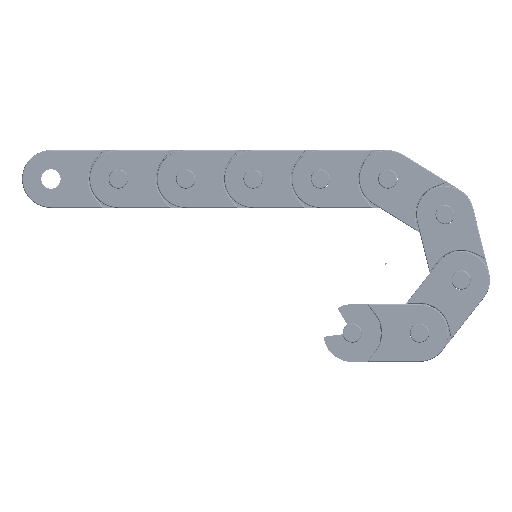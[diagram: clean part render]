
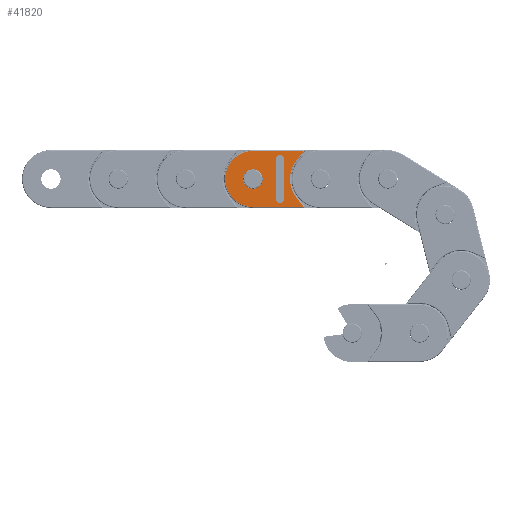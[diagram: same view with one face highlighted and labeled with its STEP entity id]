
A CAD part, left-side view. The second image highlights one B-rep face of the part: STEP entity #41820.
In plain terms, the highlighted planar face has unit normal (-1, 0, 0) as drawn and (1, 0, 0) by its records, which use the part's own axes.
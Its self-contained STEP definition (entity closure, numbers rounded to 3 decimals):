
#30343=CARTESIAN_POINT('',(125.0,12.85,15.));
#30344=VERTEX_POINT('',#30343);
#30345=CARTESIAN_POINT('',(125.0,17.9,15.));
#30346=DIRECTION('',(-1.0,0.0,0.0));
#30347=DIRECTION('',(0.0,1.0,0.0));
#30348=AXIS2_PLACEMENT_3D('',#30345,#30346,#30347);
#30349=CIRCLE('',#30348,5.05);
#30350=EDGE_CURVE('',#30344,#30344,#30349,.T.);
#30828=CARTESIAN_POINT('',(125.,-8.393,0.5));
#30829=VERTEX_POINT('',#30828);
#30853=CARTESIAN_POINT('',(125.,-8.393,29.5));
#30854=VERTEX_POINT('',#30853);
#30877=CARTESIAN_POINT('',(125.,-4.668,5.249));
#30878=VERTEX_POINT('',#30877);
#30893=CARTESIAN_POINT('',(125.,-8.393,0.5));
#30894=DIRECTION('',(0.0,0.617,0.787));
#30895=VECTOR('',#30894,6.035);
#30896=LINE('',#30893,#30895);
#30897=EDGE_CURVE('',#30829,#30878,#30896,.T.);
#30909=CARTESIAN_POINT('',(125.,-4.668,24.751));
#30910=VERTEX_POINT('',#30909);
#30911=CARTESIAN_POINT('',(125.,-17.1,15.));
#30912=DIRECTION('',(1.0,0.,0.));
#30913=DIRECTION('',(0.,1.,0.));
#30914=AXIS2_PLACEMENT_3D('',#30911,#30912,#30913);
#30915=CIRCLE('',#30914,15.8);
#30916=EDGE_CURVE('',#30878,#30910,#30915,.T.);
#30941=CARTESIAN_POINT('',(125.,-4.668,24.751));
#30942=DIRECTION('',(0.0,-0.617,0.787));
#30943=VECTOR('',#30942,6.035);
#30944=LINE('',#30941,#30943);
#30945=EDGE_CURVE('',#30910,#30854,#30944,.T.);
#30955=CARTESIAN_POINT('',(125.0,17.9,0.5));
#30956=VERTEX_POINT('',#30955);
#30966=CARTESIAN_POINT('',(125.0,17.9,0.5));
#30967=DIRECTION('',(0.0,-1.0,0.0));
#30968=VECTOR('',#30967,26.293);
#30969=LINE('',#30966,#30968);
#30970=EDGE_CURVE('',#30956,#30829,#30969,.T.);
#30987=CARTESIAN_POINT('',(125.0,17.9,29.5));
#30988=VERTEX_POINT('',#30987);
#30989=CARTESIAN_POINT('',(125.0,17.9,15.));
#30990=DIRECTION('',(-1.0,0.0,0.0));
#30991=DIRECTION('',(0.0,1.0,0.0));
#30992=AXIS2_PLACEMENT_3D('',#30989,#30990,#30991);
#30993=CIRCLE('',#30992,14.5);
#30994=EDGE_CURVE('',#30988,#30956,#30993,.T.);
#31022=CARTESIAN_POINT('',(125.,-8.393,29.5));
#31023=DIRECTION('',(0.0,1.0,0.0));
#31024=VECTOR('',#31023,26.293);
#31025=LINE('',#31022,#31024);
#31026=EDGE_CURVE('',#30854,#30988,#31025,.T.);
#32113=CARTESIAN_POINT('',(125.0,6.147,4.75));
#32114=VERTEX_POINT('',#32113);
#32115=CARTESIAN_POINT('',(125.0,1.647,4.75));
#32116=VERTEX_POINT('',#32115);
#32117=CARTESIAN_POINT('',(125.0,3.897,4.75));
#32118=DIRECTION('',(-1.0,0.0,0.0));
#32119=DIRECTION('',(0.0,0.0,1.0));
#32120=AXIS2_PLACEMENT_3D('',#32117,#32118,#32119);
#32121=CIRCLE('',#32120,2.25);
#32122=EDGE_CURVE('',#32114,#32116,#32121,.T.);
#32166=CARTESIAN_POINT('',(125.0,6.147,25.25));
#32167=VERTEX_POINT('',#32166);
#32174=CARTESIAN_POINT('',(125.0,1.647,25.25));
#32175=VERTEX_POINT('',#32174);
#32176=CARTESIAN_POINT('',(125.0,3.897,25.25));
#32177=DIRECTION('',(-1.0,0.0,0.0));
#32178=DIRECTION('',(0.0,0.0,1.0));
#32179=AXIS2_PLACEMENT_3D('',#32176,#32177,#32178);
#32180=CIRCLE('',#32179,2.25);
#32181=EDGE_CURVE('',#32175,#32167,#32180,.T.);
#40732=CARTESIAN_POINT('',(125.0,1.647,4.75));
#40733=DIRECTION('',(0.0,0.0,1.0));
#40734=VECTOR('',#40733,20.5);
#40735=LINE('',#40732,#40734);
#40736=EDGE_CURVE('',#32116,#32175,#40735,.T.);
#40754=CARTESIAN_POINT('',(125.0,6.147,25.25));
#40755=DIRECTION('',(0.0,0.0,-1.0));
#40756=VECTOR('',#40755,20.5);
#40757=LINE('',#40754,#40756);
#40758=EDGE_CURVE('',#32167,#32114,#40757,.T.);
#41798=CARTESIAN_POINT('',(125.0,0.189,15.));
#41799=DIRECTION('',(1.0,0.0,0.0));
#41800=DIRECTION('',(0.0,-1.0,0.0));
#41801=AXIS2_PLACEMENT_3D('',#41798,#41799,#41800);
#41802=PLANE('',#41801);
#41803=ORIENTED_EDGE('',*,*,#31026,.F.);
#41804=ORIENTED_EDGE('',*,*,#30945,.F.);
#41805=ORIENTED_EDGE('',*,*,#30916,.F.);
#41806=ORIENTED_EDGE('',*,*,#30897,.F.);
#41807=ORIENTED_EDGE('',*,*,#30970,.F.);
#41808=ORIENTED_EDGE('',*,*,#30994,.F.);
#41809=EDGE_LOOP('',(#41803,#41804,#41805,#41806,#41807,#41808));
#41810=FACE_OUTER_BOUND('',#41809,.T.);
#41811=ORIENTED_EDGE('',*,*,#32181,.T.);
#41812=ORIENTED_EDGE('',*,*,#40758,.T.);
#41813=ORIENTED_EDGE('',*,*,#32122,.T.);
#41814=ORIENTED_EDGE('',*,*,#40736,.T.);
#41815=EDGE_LOOP('',(#41811,#41812,#41813,#41814));
#41816=FACE_BOUND('',#41815,.T.);
#41817=ORIENTED_EDGE('',*,*,#30350,.T.);
#41818=EDGE_LOOP('',(#41817));
#41819=FACE_BOUND('',#41818,.T.);
#41820=ADVANCED_FACE('',(#41810,#41816,#41819),#41802,.T.);
